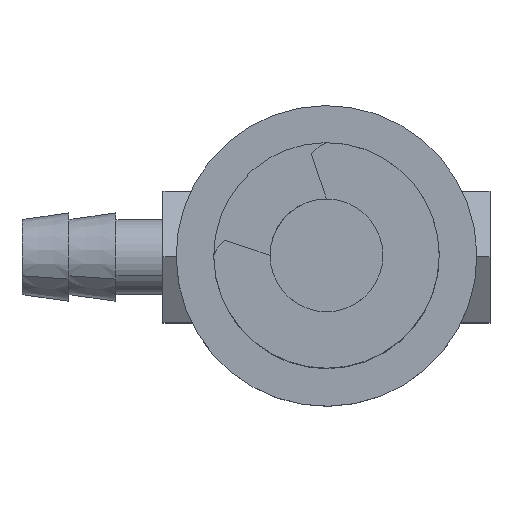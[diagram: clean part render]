
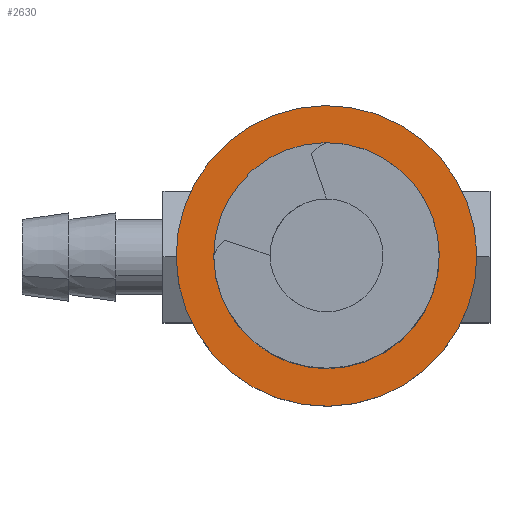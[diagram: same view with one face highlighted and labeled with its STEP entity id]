
A CAD part, top view. The second image highlights one B-rep face of the part: STEP entity #2630.
In plain terms, the highlighted planar face has unit normal (0, 0, 1).
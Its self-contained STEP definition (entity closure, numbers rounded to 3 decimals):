
#893 = EDGE_LOOP ( 'NONE', ( #3214, #8879 ) ) ;
#1170 = CARTESIAN_POINT ( 'NONE',  ( 9.722, -2.533, 15.5 ) ) ;
#1229 = DIRECTION ( 'NONE',  ( 0., 0., -1. ) ) ;
#1446 = DIRECTION ( 'NONE',  ( 0., 0., 1. ) ) ;
#1576 = DIRECTION ( 'NONE',  ( 0.944, -0.33, 0. ) ) ;
#1649 = DIRECTION ( 'NONE',  ( 0., 0., 1. ) ) ;
#1676 = CARTESIAN_POINT ( 'NONE',  ( -8.144, -4.864, 15.5 ) ) ;
#1841 = VERTEX_POINT ( 'NONE', #8595 ) ;
#2009 = EDGE_CURVE ( 'NONE', #7781, #6547, #7608, .T. ) ;
#2057 = CIRCLE ( 'NONE', #5167, 8. ) ;
#2318 = CARTESIAN_POINT ( 'NONE',  ( -5.381, 2.747, 15.5 ) ) ;
#2413 = DIRECTION ( 'NONE',  ( 0., 0., -1. ) ) ;
#2605 = EDGE_CURVE ( 'NONE', #1841, #2802, #10614, .T. ) ;
#2630 = ADVANCED_FACE ( 'NONE', ( #3723, #8846 ), #8393, .T. ) ;
#2802 = VERTEX_POINT ( 'NONE', #5594 ) ;
#3214 = ORIENTED_EDGE ( 'NONE', *, *, #2605, .T. ) ;
#3723 = FACE_BOUND ( 'NONE', #893, .T. ) ;
#3941 = AXIS2_PLACEMENT_3D ( 'NONE', #1676, #1649, #1576 ) ;
#4079 = AXIS2_PLACEMENT_3D ( 'NONE', #7567, #2413, #8446 ) ;
#4631 = EDGE_CURVE ( 'NONE', #6547, #7781, #2057, .T. ) ;
#4734 = AXIS2_PLACEMENT_3D ( 'NONE', #8049, #7965, #7933 ) ;
#5167 = AXIS2_PLACEMENT_3D ( 'NONE', #6574, #1446, #7473 ) ;
#5594 = CARTESIAN_POINT ( 'NONE',  ( 7.834, -1.873, 15.5 ) ) ;
#6261 = EDGE_LOOP ( 'NONE', ( #9451, #9299 ) ) ;
#6547 = VERTEX_POINT ( 'NONE', #2318 ) ;
#6574 = CARTESIAN_POINT ( 'NONE',  ( 2.17, 0.107, 15.5 ) ) ;
#7473 = DIRECTION ( 'NONE',  ( -0.944, 0.33, 0. ) ) ;
#7567 = CARTESIAN_POINT ( 'NONE',  ( 2.17, 0.107, 15.5 ) ) ;
#7608 = CIRCLE ( 'NONE', #4734, 8. ) ;
#7781 = VERTEX_POINT ( 'NONE', #1170 ) ;
#7933 = DIRECTION ( 'NONE',  ( -0.944, 0.33, 0. ) ) ;
#7965 = DIRECTION ( 'NONE',  ( 0., 0., 1. ) ) ;
#8049 = CARTESIAN_POINT ( 'NONE',  ( 2.17, 0.107, 15.5 ) ) ;
#8243 = EDGE_CURVE ( 'NONE', #2802, #1841, #10455, .T. ) ;
#8337 = CARTESIAN_POINT ( 'NONE',  ( 2.17, 0.107, 15.5 ) ) ;
#8393 = PLANE ( 'NONE',  #3941 ) ;
#8446 = DIRECTION ( 'NONE',  ( -0.944, 0.33, 0. ) ) ;
#8543 = DIRECTION ( 'NONE',  ( -0.944, 0.33, 0. ) ) ;
#8595 = CARTESIAN_POINT ( 'NONE',  ( -3.494, 2.087, 15.5 ) ) ;
#8846 = FACE_OUTER_BOUND ( 'NONE', #6261, .T. ) ;
#8879 = ORIENTED_EDGE ( 'NONE', *, *, #8243, .T. ) ;
#9299 = ORIENTED_EDGE ( 'NONE', *, *, #2009, .T. ) ;
#9451 = ORIENTED_EDGE ( 'NONE', *, *, #4631, .T. ) ;
#10455 = CIRCLE ( 'NONE', #4079, 6. ) ;
#10614 = CIRCLE ( 'NONE', #11098, 6. ) ;
#11098 = AXIS2_PLACEMENT_3D ( 'NONE', #8337, #1229, #8543 ) ;
